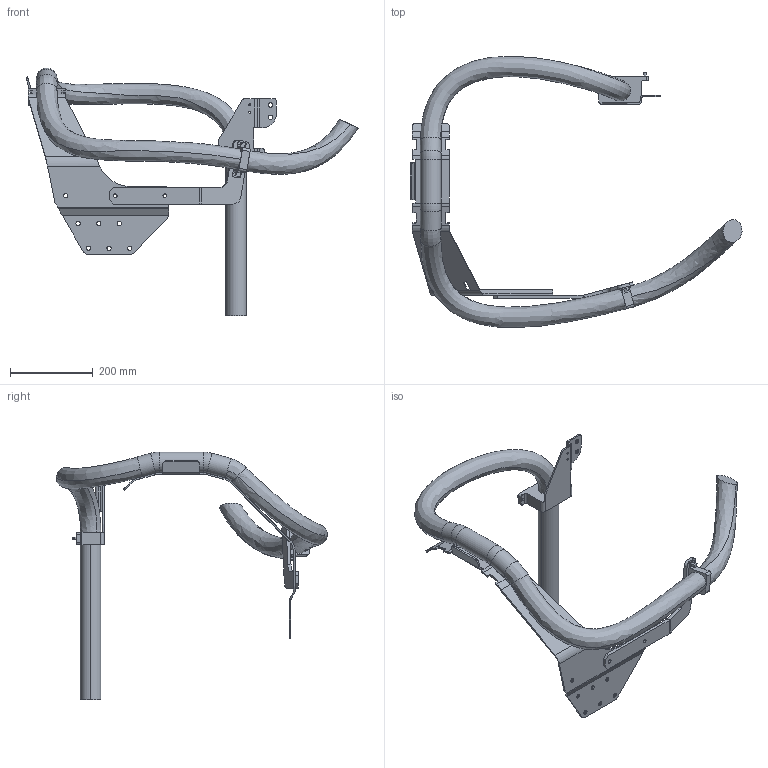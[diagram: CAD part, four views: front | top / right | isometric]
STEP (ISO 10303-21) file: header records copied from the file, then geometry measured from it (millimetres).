
FILE_DESCRIPTION (( 'STEP AP214' ), '1' );
FILE_NAME ('IRB6730-LID-MH_220kg-290_OC_00_LINK01_CABLE.step', '2026-05-26T09:08:35', ( '' ), ( '' ), 'SwSTEP 2.0', 'SolidWorks 2024', '' );
FILE_SCHEMA (( 'AUTOMOTIVE_DESIGN' ));
Length unit declared in the file: millimetre
Products named in the file (1): IRB6730-LID-MH_220kg-290_OC_00_LINK01_CABLE
Bounding box: 804.08 x 657.49 x 600.13 mm (x, y, z)
Volume: 5222311.8 mm3; surface area: 629873.9 mm2
Topology: 1 solids, 1 shells, 313 faces, 814 edges, 512 vertices
Faces by surface type: plane 160, cylinder 137, bspline 14, torus 2
Entity records: 16984 total; most frequent: CARTESIAN_POINT 5711, DIRECTION 1645, ORIENTED_EDGE 1628, EDGE_CURVE 814, AXIS2_PLACEMENT_3D 574, VERTEX_POINT 512, VECTOR 497, LINE 497
